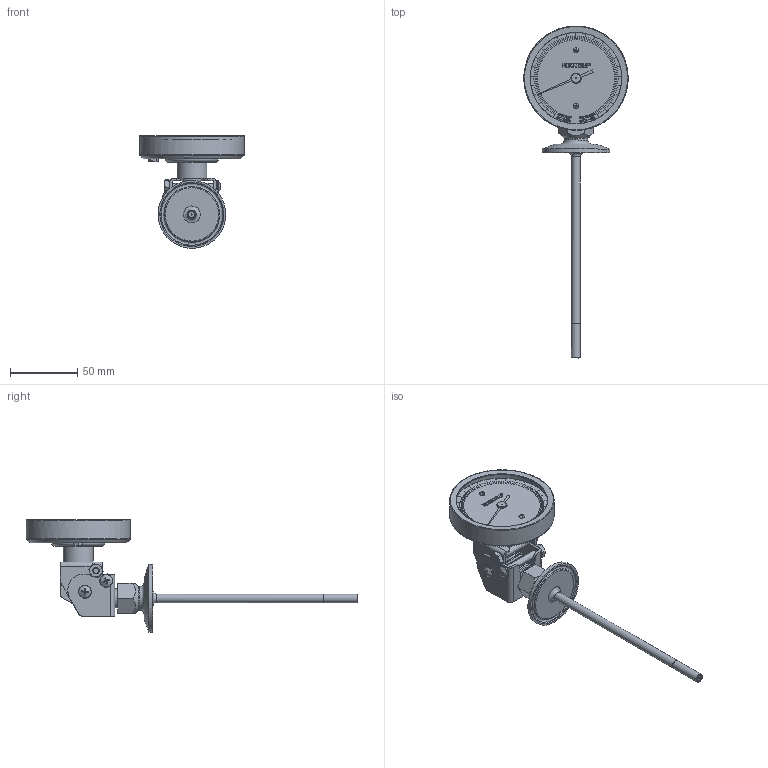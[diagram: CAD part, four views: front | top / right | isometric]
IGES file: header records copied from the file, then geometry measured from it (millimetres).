
Global section: file name: LL-1in-SANITARY-IGS; native system: Autodesk Inventor 2014; preprocessor: unknown; author: Charles; date: 20151109.145518; units: inch
Bounding box: 77.47 x 246.53 x 83.58 mm (x, y, z)
Volume: 87331.3 mm3; surface area: 65973.2 mm2
Topology: 51 solids, 51 shells, 2115 faces, 5986 edges, 3988 vertices
Faces by surface type: bspline 2115
